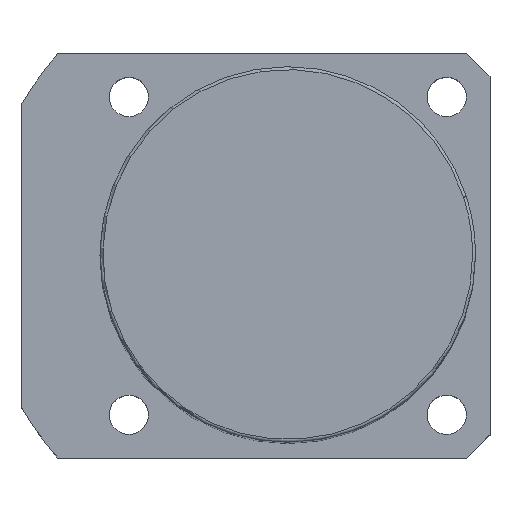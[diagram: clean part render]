
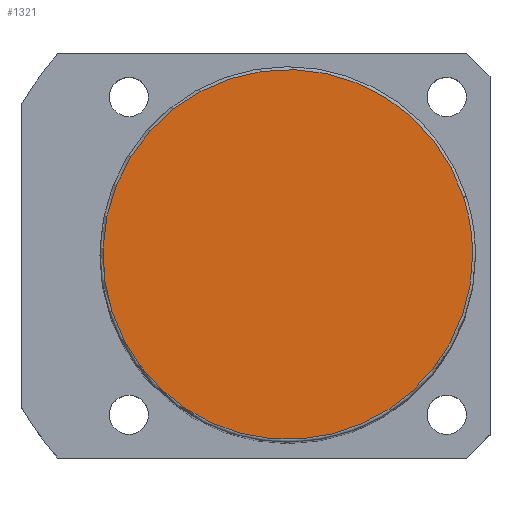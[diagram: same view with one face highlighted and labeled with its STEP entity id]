
A CAD part, top view. The second image highlights one B-rep face of the part: STEP entity #1321.
In plain terms, the highlighted planar face has unit normal (0, 0, 1).
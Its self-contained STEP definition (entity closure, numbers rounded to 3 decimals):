
#1254=CARTESIAN_POINT('',(30.434,9.889,151.0));
#1255=VERTEX_POINT('',#1254);
#1273=CARTESIAN_POINT('',(-30.434,-9.889,151.0));
#1274=VERTEX_POINT('',#1273);
#1282=CARTESIAN_POINT('',(0.0,0.0,151.0));
#1283=DIRECTION('',(0.0,0.0,1.0));
#1284=DIRECTION('',(1.0,0.0,0.0));
#1285=AXIS2_PLACEMENT_3D('',#1282,#1283,#1284);
#1286=CIRCLE('',#1285,32.0);
#1287=EDGE_CURVE('no 1849',#1255,#1274,#1286,.T.);
#1297=CARTESIAN_POINT('',(32.0,0.0,151.0));
#1298=VERTEX_POINT('',#1297);
#1299=CARTESIAN_POINT('',(0.0,0.0,151.0));
#1300=DIRECTION('',(0.0,0.0,1.0));
#1301=DIRECTION('',(1.0,0.0,0.0));
#1302=AXIS2_PLACEMENT_3D('',#1299,#1300,#1301);
#1303=CIRCLE('',#1302,32.0);
#1304=EDGE_CURVE('no 1858',#1298,#1255,#1303,.T.);
#1305=ORIENTED_EDGE('',*,*,#1304,.T.);
#1306=ORIENTED_EDGE('',*,*,#1287,.T.);
#1307=CARTESIAN_POINT('',(0.0,0.0,151.0));
#1308=DIRECTION('',(0.0,0.0,1.0));
#1309=DIRECTION('',(1.0,0.0,0.0));
#1310=AXIS2_PLACEMENT_3D('',#1307,#1308,#1309);
#1311=CIRCLE('',#1310,32.0);
#1312=EDGE_CURVE('no 1864',#1274,#1298,#1311,.T.);
#1313=ORIENTED_EDGE('',*,*,#1312,.T.);
#1314=EDGE_LOOP('',(#1305,#1306,#1313));
#1315=FACE_OUTER_BOUND('',#1314,.T.);
#1316=CARTESIAN_POINT('',(0.0,0.0,151.0));
#1317=DIRECTION('',(0.0,0.0,1.0));
#1318=DIRECTION('',(1.0,0.0,0.0));
#1319=AXIS2_PLACEMENT_3D('',#1316,#1317,#1318);
#1320=PLANE('',#1319);
#1321=ADVANCED_FACE('no 1851',(#1315),#1320,.T.);
